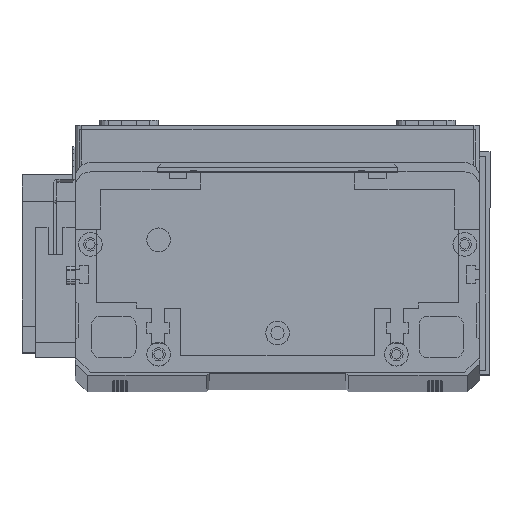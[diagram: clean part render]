
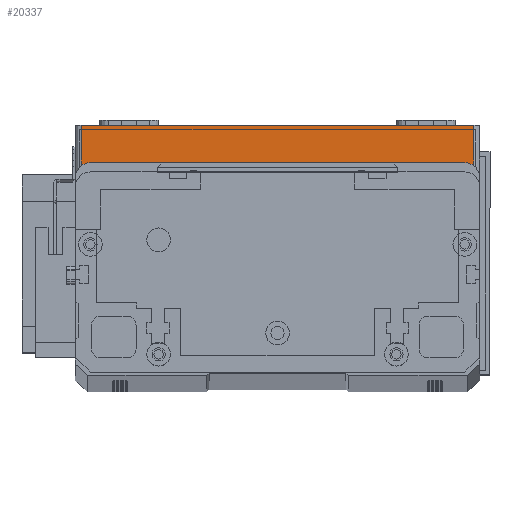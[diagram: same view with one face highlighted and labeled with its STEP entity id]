
A CAD part, top view. The second image highlights one B-rep face of the part: STEP entity #20337.
In plain terms, the highlighted planar face has unit normal (0, 0, 1) as drawn and (0, -1, 0) by its records, which use the part's own axes.
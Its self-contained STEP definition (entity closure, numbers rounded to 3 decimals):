
#76 = CARTESIAN_POINT ( 'NONE',  ( 2., 0., 19.5 ) ) ;
#1004 = CARTESIAN_POINT ( 'NONE',  ( 134., 0., 0. ) ) ;
#1813 = FACE_OUTER_BOUND ( 'NONE', #16930, .T. ) ;
#2196 = CARTESIAN_POINT ( 'NONE',  ( 0., 0., 19.5 ) ) ;
#2309 = DIRECTION ( 'NONE',  ( 0., 0., 1. ) ) ;
#2587 = EDGE_CURVE ( 'NONE', #3611, #10942, #24080, .T. ) ;
#3043 = DIRECTION ( 'NONE',  ( 0., 0., -1. ) ) ;
#3611 = VERTEX_POINT ( 'NONE', #1004 ) ;
#5146 = EDGE_CURVE ( 'NONE', #14788, #21513, #15761, .T. ) ;
#5633 = DIRECTION ( 'NONE',  ( 1., 0., 0. ) ) ;
#6113 = CARTESIAN_POINT ( 'NONE',  ( 134., 0., 19.5 ) ) ;
#6528 = DIRECTION ( 'NONE',  ( 0., 0., 1. ) ) ;
#8910 = CARTESIAN_POINT ( 'NONE',  ( 2., 0., 0. ) ) ;
#9188 = VECTOR ( 'NONE', #3043, 1000. ) ;
#10302 = EDGE_CURVE ( 'NONE', #14788, #10942, #18139, .T. ) ;
#10927 = DIRECTION ( 'NONE',  ( 1., 0., 0. ) ) ;
#10942 = VERTEX_POINT ( 'NONE', #18464 ) ;
#11571 = CARTESIAN_POINT ( 'NONE',  ( 2., 0., 19.5 ) ) ;
#12063 = ORIENTED_EDGE ( 'NONE', *, *, #5146, .T. ) ;
#12951 = EDGE_CURVE ( 'NONE', #21513, #3611, #30974, .T. ) ;
#14599 = PLANE ( 'NONE',  #24940 ) ;
#14788 = VERTEX_POINT ( 'NONE', #11571 ) ;
#15369 = CARTESIAN_POINT ( 'NONE',  ( 0., 0., 19.5 ) ) ;
#15761 = LINE ( 'NONE', #76, #9188 ) ;
#16930 = EDGE_LOOP ( 'NONE', ( #27050, #12063, #23644, #24003 ) ) ;
#17111 = DIRECTION ( 'NONE',  ( 0., 1., 0. ) ) ;
#18139 = LINE ( 'NONE', #15369, #22924 ) ;
#18464 = CARTESIAN_POINT ( 'NONE',  ( 134., 0., 19.5 ) ) ;
#20337 = ADVANCED_FACE ( 'NONE', ( #1813 ), #14599, .F. ) ;
#21513 = VERTEX_POINT ( 'NONE', #8910 ) ;
#22924 = VECTOR ( 'NONE', #5633, 1000. ) ;
#23644 = ORIENTED_EDGE ( 'NONE', *, *, #12951, .T. ) ;
#24003 = ORIENTED_EDGE ( 'NONE', *, *, #2587, .T. ) ;
#24080 = LINE ( 'NONE', #6113, #29668 ) ;
#24940 = AXIS2_PLACEMENT_3D ( 'NONE', #2196, #17111, #2309 ) ;
#25338 = CARTESIAN_POINT ( 'NONE',  ( 0., 0., 0. ) ) ;
#25370 = VECTOR ( 'NONE', #10927, 1000. ) ;
#27050 = ORIENTED_EDGE ( 'NONE', *, *, #10302, .F. ) ;
#29668 = VECTOR ( 'NONE', #6528, 1000. ) ;
#30974 = LINE ( 'NONE', #25338, #25370 ) ;
